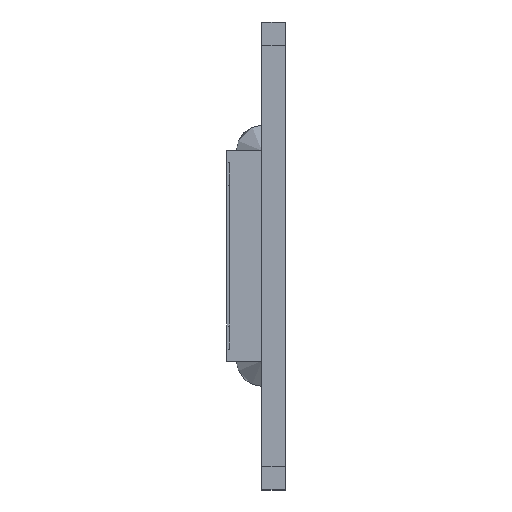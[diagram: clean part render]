
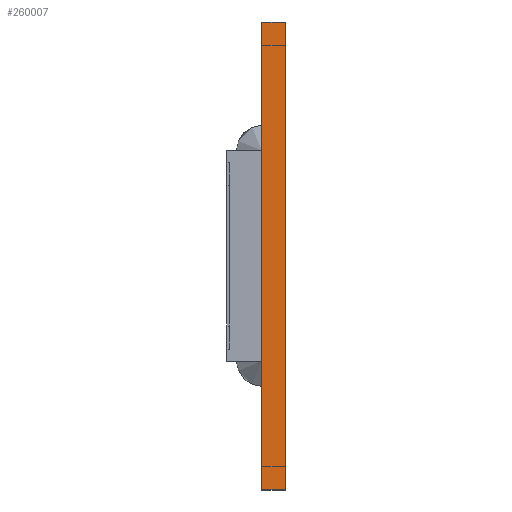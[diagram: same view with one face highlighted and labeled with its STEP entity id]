
A CAD part, left-side view. The second image highlights one B-rep face of the part: STEP entity #260007.
In plain terms, the highlighted planar face has unit normal (-1, 0, 0).
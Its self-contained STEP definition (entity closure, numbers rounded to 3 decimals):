
#1460 = CARTESIAN_POINT ( 'NONE',  ( -1950., 0.41, -5.15 ) ) ;
#4006 = DIRECTION ( 'NONE',  ( 0., 0., 1. ) ) ;
#9060 = DIRECTION ( 'NONE',  ( 0., -1., 0. ) ) ;
#9427 = DIRECTION ( 'NONE',  ( 0., 0., 1. ) ) ;
#12593 = EDGE_CURVE ( 'NONE', #93947, #109740, #35669, .T. ) ;
#13013 = VECTOR ( 'NONE', #4006, 1000. ) ;
#13363 = VERTEX_POINT ( 'NONE', #15099 ) ;
#15099 = CARTESIAN_POINT ( 'NONE',  ( -1950., 0.41, -1.55 ) ) ;
#17270 = DIRECTION ( 'NONE',  ( 0., 0., 1. ) ) ;
#17474 = VERTEX_POINT ( 'NONE', #154478 ) ;
#17591 = LINE ( 'NONE', #167142, #263830 ) ;
#17776 = VERTEX_POINT ( 'NONE', #100179 ) ;
#17779 = EDGE_CURVE ( 'NONE', #26068, #42803, #137993, .T. ) ;
#21997 = EDGE_CURVE ( 'NONE', #59568, #199804, #120015, .T. ) ;
#22173 = DIRECTION ( 'NONE',  ( 0., 0., -1. ) ) ;
#26068 = VERTEX_POINT ( 'NONE', #60451 ) ;
#26287 = CARTESIAN_POINT ( 'NONE',  ( -1950., 0.4, 0. ) ) ;
#34232 = EDGE_CURVE ( 'NONE', #93947, #17474, #110278, .T. ) ;
#34775 = EDGE_CURVE ( 'NONE', #109740, #17776, #139187, .T. ) ;
#35669 = LINE ( 'NONE', #55286, #92901 ) ;
#36178 = CARTESIAN_POINT ( 'NONE',  ( -1950., 0.41, -2.85 ) ) ;
#41753 = VECTOR ( 'NONE', #255705, 1000. ) ;
#42803 = VERTEX_POINT ( 'NONE', #227734 ) ;
#46853 = CARTESIAN_POINT ( 'NONE',  ( -1950., 0.4, 0. ) ) ;
#48630 = FACE_OUTER_BOUND ( 'NONE', #263158, .T. ) ;
#49838 = VECTOR ( 'NONE', #9427, 1000. ) ;
#51148 = DIRECTION ( 'NONE',  ( 0., 0., 1. ) ) ;
#55286 = CARTESIAN_POINT ( 'NONE',  ( -1950., 0.4, -8. ) ) ;
#55475 = CARTESIAN_POINT ( 'NONE',  ( -1950., 0.4, 0. ) ) ;
#56106 = LINE ( 'NONE', #46853, #196242 ) ;
#57171 = ORIENTED_EDGE ( 'NONE', *, *, #251486, .F. ) ;
#59390 = EDGE_CURVE ( 'NONE', #91740, #246228, #144495, .T. ) ;
#59568 = VERTEX_POINT ( 'NONE', #36178 ) ;
#60451 = CARTESIAN_POINT ( 'NONE',  ( -1950., 0.4, -1.55 ) ) ;
#65597 = VECTOR ( 'NONE', #188630, 1000. ) ;
#69602 = DIRECTION ( 'NONE',  ( 1., 0., 0. ) ) ;
#72366 = VECTOR ( 'NONE', #218856, 1000. ) ;
#76723 = VECTOR ( 'NONE', #17270, 1000. ) ;
#78778 = CARTESIAN_POINT ( 'NONE',  ( -1950., 0.41, -6.45 ) ) ;
#84780 = EDGE_CURVE ( 'NONE', #91740, #17474, #17591, .T. ) ;
#91740 = VERTEX_POINT ( 'NONE', #78778 ) ;
#92901 = VECTOR ( 'NONE', #122353, 1000. ) ;
#93947 = VERTEX_POINT ( 'NONE', #175862 ) ;
#100109 = VECTOR ( 'NONE', #272312, 1000. ) ;
#100179 = CARTESIAN_POINT ( 'NONE',  ( -1950., 0., 0. ) ) ;
#102119 = ORIENTED_EDGE ( 'NONE', *, *, #34775, .T. ) ;
#105106 = LINE ( 'NONE', #198231, #13013 ) ;
#108932 = CARTESIAN_POINT ( 'NONE',  ( -1950., 0.4, 0. ) ) ;
#109740 = VERTEX_POINT ( 'NONE', #234695 ) ;
#110278 = LINE ( 'NONE', #108932, #41753 ) ;
#114488 = ORIENTED_EDGE ( 'NONE', *, *, #34232, .F. ) ;
#120015 = LINE ( 'NONE', #205227, #100109 ) ;
#122353 = DIRECTION ( 'NONE',  ( 0., -1., 0. ) ) ;
#123263 = ORIENTED_EDGE ( 'NONE', *, *, #84780, .T. ) ;
#129857 = VERTEX_POINT ( 'NONE', #237259 ) ;
#130880 = LINE ( 'NONE', #172808, #72366 ) ;
#137993 = LINE ( 'NONE', #55475, #49838 ) ;
#139187 = LINE ( 'NONE', #181122, #165835 ) ;
#140320 = EDGE_CURVE ( 'NONE', #13363, #26068, #233642, .T. ) ;
#144495 = LINE ( 'NONE', #229718, #76723 ) ;
#147675 = ORIENTED_EDGE ( 'NONE', *, *, #59390, .F. ) ;
#147707 = EDGE_CURVE ( 'NONE', #129857, #199804, #130880, .T. ) ;
#148194 = ORIENTED_EDGE ( 'NONE', *, *, #17779, .F. ) ;
#149399 = PLANE ( 'NONE',  #184544 ) ;
#154478 = CARTESIAN_POINT ( 'NONE',  ( -1950., 0.4, -6.45 ) ) ;
#165770 = DIRECTION ( 'NONE',  ( 0., -1., 0. ) ) ;
#165835 = VECTOR ( 'NONE', #51148, 1000. ) ;
#167142 = CARTESIAN_POINT ( 'NONE',  ( -1950., 0.41, -6.45 ) ) ;
#170733 = DIRECTION ( 'NONE',  ( 0., -1., 0. ) ) ;
#172808 = CARTESIAN_POINT ( 'NONE',  ( -1950., 0.4, 0. ) ) ;
#175862 = CARTESIAN_POINT ( 'NONE',  ( -1950., 0.4, -8. ) ) ;
#177907 = ORIENTED_EDGE ( 'NONE', *, *, #12593, .T. ) ;
#181122 = CARTESIAN_POINT ( 'NONE',  ( -1950., 0., 0. ) ) ;
#184544 = AXIS2_PLACEMENT_3D ( 'NONE', #26287, #69602, #22173 ) ;
#188035 = EDGE_CURVE ( 'NONE', #42803, #17776, #56106, .T. ) ;
#188630 = DIRECTION ( 'NONE',  ( 0., -1., 0. ) ) ;
#196242 = VECTOR ( 'NONE', #9060, 1000. ) ;
#198231 = CARTESIAN_POINT ( 'NONE',  ( -1950., 0.41, -2.85 ) ) ;
#199804 = VERTEX_POINT ( 'NONE', #275763 ) ;
#205227 = CARTESIAN_POINT ( 'NONE',  ( -1950., 0.41, -2.85 ) ) ;
#206813 = CARTESIAN_POINT ( 'NONE',  ( -1950., 0.41, -5.15 ) ) ;
#212648 = CARTESIAN_POINT ( 'NONE',  ( -1950., 0.41, -1.55 ) ) ;
#217644 = ORIENTED_EDGE ( 'NONE', *, *, #21997, .T. ) ;
#218856 = DIRECTION ( 'NONE',  ( 0., 0., 1. ) ) ;
#227734 = CARTESIAN_POINT ( 'NONE',  ( -1950., 0.4, 0. ) ) ;
#228379 = ORIENTED_EDGE ( 'NONE', *, *, #140320, .F. ) ;
#229718 = CARTESIAN_POINT ( 'NONE',  ( -1950., 0.41, -5.15 ) ) ;
#230557 = LINE ( 'NONE', #206813, #65597 ) ;
#230880 = ORIENTED_EDGE ( 'NONE', *, *, #270297, .F. ) ;
#230893 = ORIENTED_EDGE ( 'NONE', *, *, #147707, .F. ) ;
#233642 = LINE ( 'NONE', #212648, #266456 ) ;
#234695 = CARTESIAN_POINT ( 'NONE',  ( -1950., 0., -8. ) ) ;
#237259 = CARTESIAN_POINT ( 'NONE',  ( -1950., 0.4, -5.15 ) ) ;
#246228 = VERTEX_POINT ( 'NONE', #1460 ) ;
#251486 = EDGE_CURVE ( 'NONE', #246228, #129857, #230557, .T. ) ;
#255705 = DIRECTION ( 'NONE',  ( 0., 0., 1. ) ) ;
#260007 = ADVANCED_FACE ( 'NONE', ( #48630 ), #149399, .F. ) ;
#263158 = EDGE_LOOP ( 'NONE', ( #102119, #276574, #148194, #228379, #230880, #217644, #230893, #57171, #147675, #123263, #114488, #177907 ) ) ;
#263830 = VECTOR ( 'NONE', #165770, 1000. ) ;
#266456 = VECTOR ( 'NONE', #170733, 1000. ) ;
#270297 = EDGE_CURVE ( 'NONE', #59568, #13363, #105106, .T. ) ;
#272312 = DIRECTION ( 'NONE',  ( 0., -1., 0. ) ) ;
#275763 = CARTESIAN_POINT ( 'NONE',  ( -1950., 0.4, -2.85 ) ) ;
#276574 = ORIENTED_EDGE ( 'NONE', *, *, #188035, .F. ) ;
